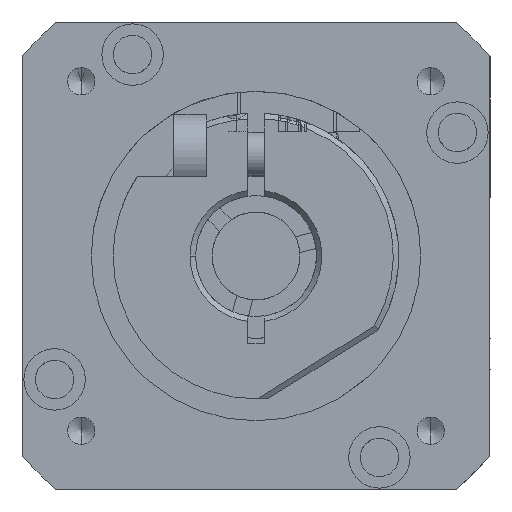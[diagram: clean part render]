
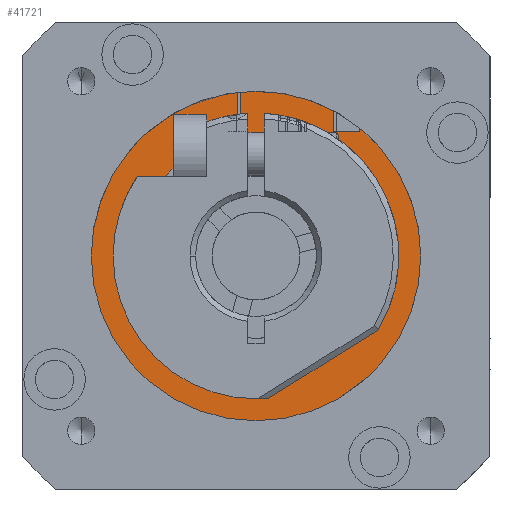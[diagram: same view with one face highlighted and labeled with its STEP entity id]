
A CAD part, left-side view. The second image highlights one B-rep face of the part: STEP entity #41721.
In plain terms, the highlighted planar face has unit normal (-1, 0, 0) as drawn and (0, -1, 0) by its records, which use the part's own axes.
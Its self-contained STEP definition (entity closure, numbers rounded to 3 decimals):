
#407 = CARTESIAN_POINT ( 'NONE',  ( 7.065, 13.7, 0. ) ) ;
#646 = VERTEX_POINT ( 'NONE', #26875 ) ;
#881 = DIRECTION ( 'NONE',  ( 0., 1., 0. ) ) ;
#1124 = CIRCLE ( 'NONE', #14711, 11. ) ;
#1834 = VECTOR ( 'NONE', #15297, 1000. ) ;
#1840 = AXIS2_PLACEMENT_3D ( 'NONE', #9878, #33334, #13234 ) ;
#2299 = LINE ( 'NONE', #39979, #36865 ) ;
#2943 = EDGE_CURVE ( 'NONE', #646, #28643, #40737, .T. ) ;
#3790 = DIRECTION ( 'NONE',  ( 0., 0., -1. ) ) ;
#3800 = VERTEX_POINT ( 'NONE', #9507 ) ;
#4518 = DIRECTION ( 'NONE',  ( 0., 0., -1. ) ) ;
#4564 = CARTESIAN_POINT ( 'NONE',  ( -1.641, 13.7, 0. ) ) ;
#4712 = VERTEX_POINT ( 'NONE', #5806 ) ;
#5002 = ORIENTED_EDGE ( 'NONE', *, *, #9330, .T. ) ;
#5125 = EDGE_CURVE ( 'NONE', #33939, #8792, #2299, .T. ) ;
#5341 = DIRECTION ( 'NONE',  ( 0., -1., 0. ) ) ;
#5806 = CARTESIAN_POINT ( 'NONE',  ( 11., 13.7, 0. ) ) ;
#7291 = CARTESIAN_POINT ( 'NONE',  ( 7.065, 13.7, 13.232 ) ) ;
#8792 = VERTEX_POINT ( 'NONE', #16717 ) ;
#9330 = EDGE_CURVE ( 'NONE', #18675, #27624, #15785, .T. ) ;
#9472 = CARTESIAN_POINT ( 'NONE',  ( 0., 13.7, 0. ) ) ;
#9507 = CARTESIAN_POINT ( 'NONE',  ( -11., 13.7, 0. ) ) ;
#9878 = CARTESIAN_POINT ( 'NONE',  ( 0., 13.7, 0. ) ) ;
#11036 = DIRECTION ( 'NONE',  ( 0., -1., 0. ) ) ;
#12760 = EDGE_CURVE ( 'NONE', #42064, #8792, #37950, .T. ) ;
#12844 = DIRECTION ( 'NONE',  ( -1., 0., 0. ) ) ;
#12954 = LINE ( 'NONE', #407, #21896 ) ;
#13019 = CIRCLE ( 'NONE', #36948, 11. ) ;
#13234 = DIRECTION ( 'NONE',  ( -1., 0., 0. ) ) ;
#13568 = AXIS2_PLACEMENT_3D ( 'NONE', #16001, #39244, #19420 ) ;
#13674 = CARTESIAN_POINT ( 'NONE',  ( 7.065, 13.7, 11.3 ) ) ;
#14035 = CARTESIAN_POINT ( 'NONE',  ( 9.415, 13.7, 11.3 ) ) ;
#14711 = AXIS2_PLACEMENT_3D ( 'NONE', #25505, #5341, #28833 ) ;
#14895 = AXIS2_PLACEMENT_3D ( 'NONE', #31126, #11036, #34481 ) ;
#15297 = DIRECTION ( 'NONE',  ( 0., 0., 1. ) ) ;
#15785 = LINE ( 'NONE', #23195, #32590 ) ;
#16001 = CARTESIAN_POINT ( 'NONE',  ( 0., 13.7, 0. ) ) ;
#16266 = CARTESIAN_POINT ( 'NONE',  ( 15., 13.7, 0. ) ) ;
#16446 = ORIENTED_EDGE ( 'NONE', *, *, #39432, .T. ) ;
#16565 = VERTEX_POINT ( 'NONE', #39689 ) ;
#16717 = CARTESIAN_POINT ( 'NONE',  ( -1.641, 13.7, 11.3 ) ) ;
#17655 = CARTESIAN_POINT ( 'NONE',  ( 11., 13.7, 0. ) ) ;
#18675 = VERTEX_POINT ( 'NONE', #14035 ) ;
#19292 = ORIENTED_EDGE ( 'NONE', *, *, #2943, .T. ) ;
#19420 = DIRECTION ( 'NONE',  ( -1., 0., 0. ) ) ;
#19567 = ORIENTED_EDGE ( 'NONE', *, *, #37807, .F. ) ;
#19882 = EDGE_CURVE ( 'NONE', #31902, #27624, #12954, .T. ) ;
#20295 = CARTESIAN_POINT ( 'NONE',  ( -1.641, 13.7, 14.91 ) ) ;
#20474 = LINE ( 'NONE', #27292, #36083 ) ;
#20600 = EDGE_CURVE ( 'NONE', #18675, #16565, #30722, .T. ) ;
#20647 = ORIENTED_EDGE ( 'NONE', *, *, #25607, .T. ) ;
#20708 = CARTESIAN_POINT ( 'NONE',  ( -1.412, 13.7, 11.3 ) ) ;
#20955 = DIRECTION ( 'NONE',  ( -1., 0., 0. ) ) ;
#21092 = DIRECTION ( 'NONE',  ( 0., -1., 0. ) ) ;
#21445 = ORIENTED_EDGE ( 'NONE', *, *, #30628, .T. ) ;
#21737 = VERTEX_POINT ( 'NONE', #28141 ) ;
#21896 = VECTOR ( 'NONE', #3790, 1000. ) ;
#22423 = VECTOR ( 'NONE', #4518, 1000. ) ;
#22532 = DIRECTION ( 'NONE',  ( -1., 0., 0. ) ) ;
#23006 = AXIS2_PLACEMENT_3D ( 'NONE', #36426, #21092, #20955 ) ;
#23195 = CARTESIAN_POINT ( 'NONE',  ( 11., 13.7, 11.3 ) ) ;
#23941 = DIRECTION ( 'NONE',  ( 0., 0., 1. ) ) ;
#24455 = DIRECTION ( 'NONE',  ( -1., 0., 0. ) ) ;
#24483 = EDGE_LOOP ( 'NONE', ( #19567, #38781 ) ) ;
#25505 = CARTESIAN_POINT ( 'NONE',  ( 0., 13.7, 0. ) ) ;
#25607 = EDGE_CURVE ( 'NONE', #42064, #646, #33375, .T. ) ;
#26875 = CARTESIAN_POINT ( 'NONE',  ( -15., 13.7, 0. ) ) ;
#27292 = CARTESIAN_POINT ( 'NONE',  ( -1.412, 13.7, 0. ) ) ;
#27412 = EDGE_LOOP ( 'NONE', ( #35501, #5002, #36954, #21445, #33907, #32142, #41480, #20647, #19292, #16446 ) ) ;
#27500 = FACE_OUTER_BOUND ( 'NONE', #27412, .T. ) ;
#27624 = VERTEX_POINT ( 'NONE', #13674 ) ;
#28141 = CARTESIAN_POINT ( 'NONE',  ( -1.412, 13.7, 14.933 ) ) ;
#28643 = VERTEX_POINT ( 'NONE', #16266 ) ;
#28833 = DIRECTION ( 'NONE',  ( -1., 0., 0. ) ) ;
#29150 = CIRCLE ( 'NONE', #14895, 15. ) ;
#30628 = EDGE_CURVE ( 'NONE', #31902, #21737, #36327, .T. ) ;
#30722 = LINE ( 'NONE', #41465, #1834 ) ;
#31126 = CARTESIAN_POINT ( 'NONE',  ( 0., 13.7, 0. ) ) ;
#31902 = VERTEX_POINT ( 'NONE', #7291 ) ;
#32142 = ORIENTED_EDGE ( 'NONE', *, *, #5125, .T. ) ;
#32590 = VECTOR ( 'NONE', #22532, 1000. ) ;
#32939 = DIRECTION ( 'NONE',  ( 0., -1., 0. ) ) ;
#33334 = DIRECTION ( 'NONE',  ( 0., -1., 0. ) ) ;
#33375 = CIRCLE ( 'NONE', #13568, 15. ) ;
#33907 = ORIENTED_EDGE ( 'NONE', *, *, #33923, .F. ) ;
#33923 = EDGE_CURVE ( 'NONE', #33939, #21737, #20474, .T. ) ;
#33939 = VERTEX_POINT ( 'NONE', #20708 ) ;
#34358 = PLANE ( 'NONE',  #37328 ) ;
#34481 = DIRECTION ( 'NONE',  ( -1., 0., 0. ) ) ;
#35294 = FACE_BOUND ( 'NONE', #24483, .T. ) ;
#35501 = ORIENTED_EDGE ( 'NONE', *, *, #20600, .F. ) ;
#36083 = VECTOR ( 'NONE', #23941, 1000. ) ;
#36327 = CIRCLE ( 'NONE', #1840, 15. ) ;
#36426 = CARTESIAN_POINT ( 'NONE',  ( 0., 13.7, 0. ) ) ;
#36865 = VECTOR ( 'NONE', #39710, 1000. ) ;
#36948 = AXIS2_PLACEMENT_3D ( 'NONE', #9472, #32939, #12844 ) ;
#36954 = ORIENTED_EDGE ( 'NONE', *, *, #19882, .F. ) ;
#37328 = AXIS2_PLACEMENT_3D ( 'NONE', #17655, #881, #24455 ) ;
#37807 = EDGE_CURVE ( 'NONE', #3800, #4712, #13019, .T. ) ;
#37950 = LINE ( 'NONE', #4564, #22423 ) ;
#38781 = ORIENTED_EDGE ( 'NONE', *, *, #42576, .F. ) ;
#39244 = DIRECTION ( 'NONE',  ( 0., -1., 0. ) ) ;
#39432 = EDGE_CURVE ( 'NONE', #28643, #16565, #29150, .T. ) ;
#39689 = CARTESIAN_POINT ( 'NONE',  ( 9.415, 13.7, 11.677 ) ) ;
#39710 = DIRECTION ( 'NONE',  ( -1., 0., 0. ) ) ;
#39979 = CARTESIAN_POINT ( 'NONE',  ( 11., 13.7, 11.3 ) ) ;
#40737 = CIRCLE ( 'NONE', #23006, 15. ) ;
#41465 = CARTESIAN_POINT ( 'NONE',  ( 9.415, 13.7, 0. ) ) ;
#41480 = ORIENTED_EDGE ( 'NONE', *, *, #12760, .F. ) ;
#41721 = ADVANCED_FACE ( 'NONE', ( #35294, #27500 ), #34358, .F. ) ;
#42064 = VERTEX_POINT ( 'NONE', #20295 ) ;
#42576 = EDGE_CURVE ( 'NONE', #4712, #3800, #1124, .T. ) ;
